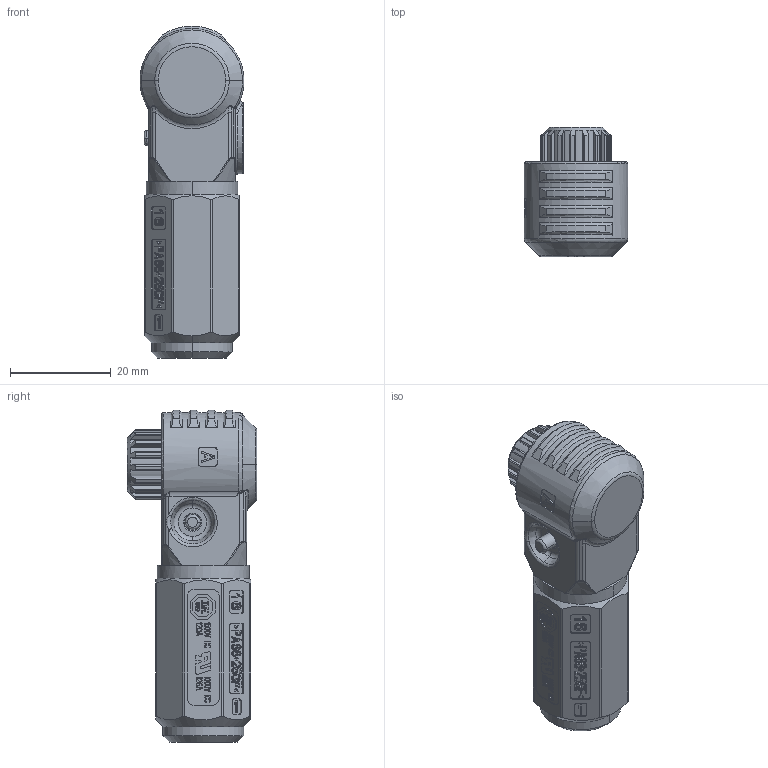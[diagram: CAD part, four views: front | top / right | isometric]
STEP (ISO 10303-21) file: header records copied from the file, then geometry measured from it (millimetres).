
FILE_DESCRIPTION((''),'2;1');
FILE_NAME('HRCT-P0157-A16_2','2024-05-30T08:17:04',('zc'),(''),'CREO PARAMETRIC BY PTC INC, 2018050','CREO PARAMETRIC BY PTC INC, 2018050','');
FILE_SCHEMA(('CONFIG_CONTROL_DESIGN'));
Length unit declared in the file: millimetre
Products named in the file (1): HRCT-P0157-A16_2
Bounding box: 20.65 x 25.72 x 65.92 mm (x, y, z)
Volume: 16329.8 mm3; surface area: 12645.7 mm2
Topology: 1 solids, 2 shells, 2992 faces, 8562 edges, 5666 vertices
Faces by surface type: plane 1872, extrusion 509, cylinder 308, torus 118, cone 97, bspline 85, sphere 3
Entity records: 114014 total; most frequent: CARTESIAN_POINT 39933, ORIENTED_EDGE 17116, DIRECTION 12321, EDGE_CURVE 8558, VECTOR 5869, VERTEX_POINT 5666, LINE 5360, AXIS2_PLACEMENT_3D 3226
